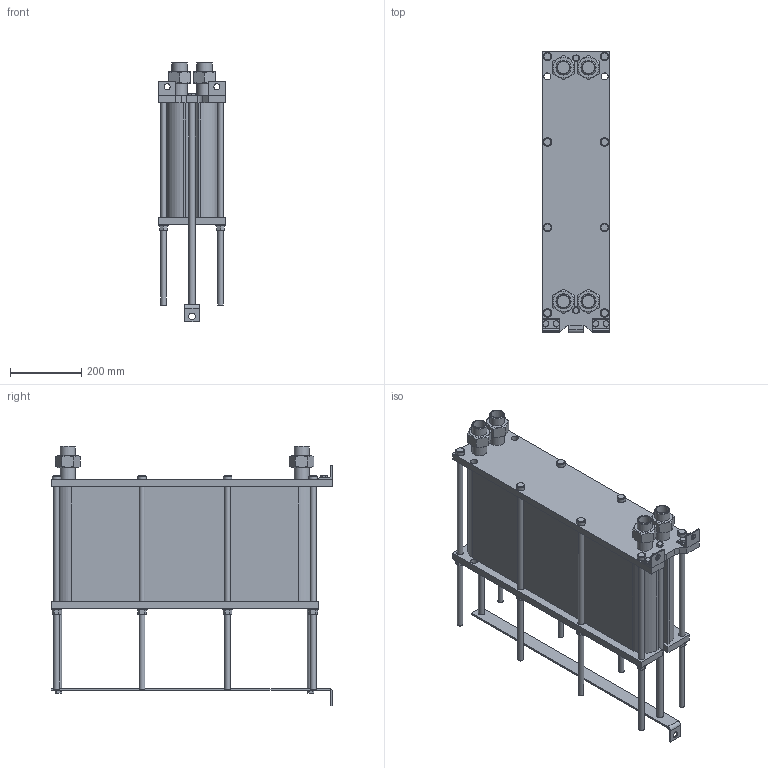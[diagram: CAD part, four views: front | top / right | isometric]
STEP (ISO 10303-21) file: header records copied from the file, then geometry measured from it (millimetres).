
FILE_DESCRIPTION(/* description */ (''),/* implementation_level */ '2;1');
FILE_NAME(/* name */ 'C:\Users\zhuro\Desktop\ENCO\TO\ЭН-008\ЭН-0,5-008-104-1.stp',/* time_stamp */ '2022-06-06T10:55:15+03:00',/* author */ ('zhuro'),/* organization */ (''),/* preprocessor_version */ 'ST-DEVELOPER v18.1',/* originating_system */ 'Autodesk Inventor 2022',/* authorisation */ '');
FILE_SCHEMA (('AUTOMOTIVE_DESIGN { 1 0 10303 214 3 1 1 }'));
Length unit declared in the file: millimetre
Products named in the file (1): ЭН-0,5-008-104-1
Bounding box: 190 x 790 x 728.2 mm (x, y, z)
Volume: 39852000.5 mm3; surface area: 2055360.1 mm2
Topology: 40 solids, 40 shells, 428 faces, 924 edges, 606 vertices
Faces by surface type: plane 273, cylinder 109, cone 40, torus 6
Full cylindrical faces by diameter (mm): 12 x6, 14 x2, 16 x20, 17 x8, 18 x19, 20 x5, 24 x8, 28 x8, 34.3 x8, 42.3 x8
Entity records: 15843 total; most frequent: CARTESIAN_POINT 5991, DIRECTION 1984, ORIENTED_EDGE 1848, EDGE_CURVE 924, AXIS2_PLACEMENT_3D 715, VERTEX_POINT 606, LINE 554, VECTOR 554
